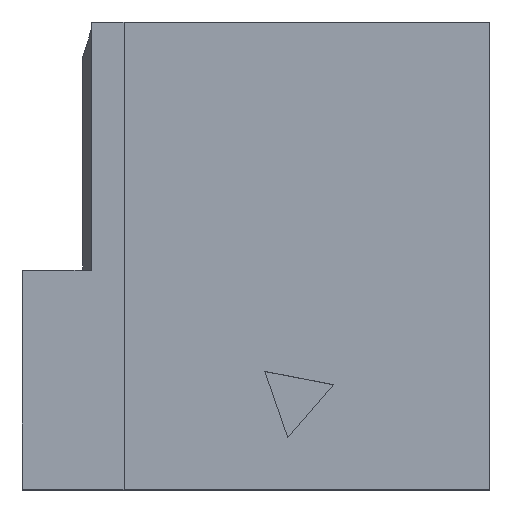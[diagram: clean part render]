
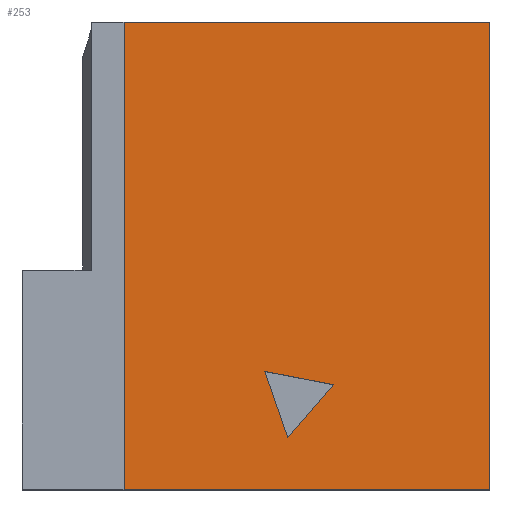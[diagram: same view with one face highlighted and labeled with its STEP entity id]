
A CAD part, top view. The second image highlights one B-rep face of the part: STEP entity #253.
In plain terms, the highlighted planar face has unit normal (0, 0, 1).
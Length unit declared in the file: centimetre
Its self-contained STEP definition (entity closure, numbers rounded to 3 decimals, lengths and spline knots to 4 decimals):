
#11 = CARTESIAN_POINT ( 'NONE',  ( 567.9748, 110.1079, 1000. ) ) ;
#39 = EDGE_LOOP ( 'NONE', ( #1420, #580, #1160 ) ) ;
#44 = EDGE_CURVE ( 'NONE', #1070, #859, #1290, .T. ) ;
#112 = EDGE_CURVE ( 'NONE', #286, #132, #748, .T. ) ;
#127 = CARTESIAN_POINT ( 'NONE',  ( 1000., 1000., 1000. ) ) ;
#132 = VERTEX_POINT ( 'NONE', #536 ) ;
#200 = DIRECTION ( 'NONE',  ( 0.655, 0.756, 0. ) ) ;
#209 = ORIENTED_EDGE ( 'NONE', *, *, #1104, .T. ) ;
#213 = EDGE_CURVE ( 'NONE', #747, #859, #525, .T. ) ;
#224 = FACE_BOUND ( 'NONE', #39, .T. ) ;
#240 = ORIENTED_EDGE ( 'NONE', *, *, #718, .T. ) ;
#253 = ADVANCED_FACE ( 'NONE', ( #224, #566 ), #664, .T. ) ;
#286 = VERTEX_POINT ( 'NONE', #11 ) ;
#337 = DIRECTION ( 'NONE',  ( 1., 0., 0. ) ) ;
#440 = CARTESIAN_POINT ( 'NONE',  ( 217.4675, 0., 1000. ) ) ;
#505 = CARTESIAN_POINT ( 'NONE',  ( 518.8165, 252.3148, 1000. ) ) ;
#525 = LINE ( 'NONE', #629, #1421 ) ;
#536 = CARTESIAN_POINT ( 'NONE',  ( 666.5504, 223.7836, 1000. ) ) ;
#566 = FACE_OUTER_BOUND ( 'NONE', #1414, .T. ) ;
#571 = CARTESIAN_POINT ( 'NONE',  ( 518.8165, 252.3148, 1000. ) ) ;
#576 = DIRECTION ( 'NONE',  ( 0., 1., 0. ) ) ;
#580 = ORIENTED_EDGE ( 'NONE', *, *, #767, .F. ) ;
#583 = LINE ( 'NONE', #127, #1038 ) ;
#589 = VECTOR ( 'NONE', #976, 100. ) ;
#594 = LINE ( 'NONE', #571, #912 ) ;
#610 = CARTESIAN_POINT ( 'NONE',  ( 217.4675, 1000., 1000. ) ) ;
#617 = DIRECTION ( 'NONE',  ( -0.982, 0.19, 0. ) ) ;
#629 = CARTESIAN_POINT ( 'NONE',  ( 0., 1000., 1000. ) ) ;
#630 = CARTESIAN_POINT ( 'NONE',  ( 1000., 1000., 1000. ) ) ;
#664 = PLANE ( 'NONE',  #675 ) ;
#675 = AXIS2_PLACEMENT_3D ( 'NONE', #1002, #1127, #337 ) ;
#694 = CARTESIAN_POINT ( 'NONE',  ( 1000., 0., 1000. ) ) ;
#718 = EDGE_CURVE ( 'NONE', #1070, #1353, #851, .T. ) ;
#738 = DIRECTION ( 'NONE',  ( 0., 1., 0. ) ) ;
#744 = CARTESIAN_POINT ( 'NONE',  ( 666.5504, 223.7836, 1000. ) ) ;
#747 = VERTEX_POINT ( 'NONE', #630 ) ;
#748 = LINE ( 'NONE', #1230, #785 ) ;
#767 = EDGE_CURVE ( 'NONE', #132, #775, #1082, .T. ) ;
#775 = VERTEX_POINT ( 'NONE', #505 ) ;
#785 = VECTOR ( 'NONE', #200, 100. ) ;
#851 = LINE ( 'NONE', #1292, #589 ) ;
#859 = VERTEX_POINT ( 'NONE', #610 ) ;
#912 = VECTOR ( 'NONE', #1023, 100. ) ;
#974 = DIRECTION ( 'NONE',  ( -1., 0., 0. ) ) ;
#976 = DIRECTION ( 'NONE',  ( 1., 0., 0. ) ) ;
#1002 = CARTESIAN_POINT ( 'NONE',  ( 0., 0., 1000. ) ) ;
#1023 = DIRECTION ( 'NONE',  ( 0.327, -0.945, 0. ) ) ;
#1038 = VECTOR ( 'NONE', #576, 100. ) ;
#1070 = VERTEX_POINT ( 'NONE', #440 ) ;
#1082 = LINE ( 'NONE', #744, #1335 ) ;
#1104 = EDGE_CURVE ( 'NONE', #1353, #747, #583, .T. ) ;
#1127 = DIRECTION ( 'NONE',  ( 0., 0., 1. ) ) ;
#1160 = ORIENTED_EDGE ( 'NONE', *, *, #112, .F. ) ;
#1230 = CARTESIAN_POINT ( 'NONE',  ( 567.9748, 110.1079, 1000. ) ) ;
#1255 = VECTOR ( 'NONE', #738, 100. ) ;
#1257 = EDGE_CURVE ( 'NONE', #775, #286, #594, .T. ) ;
#1290 = LINE ( 'NONE', #1422, #1255 ) ;
#1292 = CARTESIAN_POINT ( 'NONE',  ( 0., 0., 1000. ) ) ;
#1335 = VECTOR ( 'NONE', #617, 100. ) ;
#1353 = VERTEX_POINT ( 'NONE', #694 ) ;
#1363 = ORIENTED_EDGE ( 'NONE', *, *, #44, .F. ) ;
#1389 = ORIENTED_EDGE ( 'NONE', *, *, #213, .T. ) ;
#1414 = EDGE_LOOP ( 'NONE', ( #1363, #240, #209, #1389 ) ) ;
#1420 = ORIENTED_EDGE ( 'NONE', *, *, #1257, .F. ) ;
#1421 = VECTOR ( 'NONE', #974, 100. ) ;
#1422 = CARTESIAN_POINT ( 'NONE',  ( 217.4675, 0., 1000. ) ) ;
